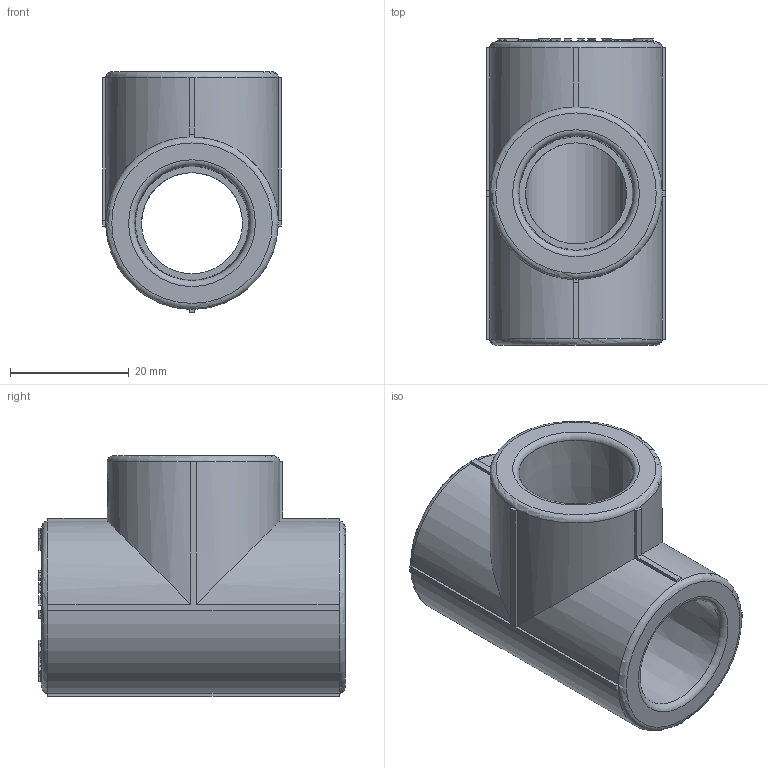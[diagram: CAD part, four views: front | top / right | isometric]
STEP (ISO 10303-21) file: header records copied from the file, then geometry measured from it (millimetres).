
FILE_DESCRIPTION(('STEP AP203'), '1');
FILE_NAME('ÂÐ.752241.026 - VTp.731.0.020', '', ('UNSPECIFIED'), ('UNSPECIFIED'), 'C3D Converter', 'C3D Toolkit', '');
FILE_SCHEMA(('CONFIG_CONTROL_DESIGN'));
Length unit declared in the file: millimetre
Products named in the file (1): ВР.752241.026
Bounding box: 30 x 51.5 x 40.5 mm (x, y, z)
Volume: 23812.3 mm3; surface area: 10542.2 mm2
Topology: 1 solids, 1 shells, 1047 faces, 2934 edges, 1946 vertices
Faces by surface type: extrusion 611, plane 390, cylinder 37, torus 6, cone 3
Full cylindrical faces by diameter (mm): 6 x1, 17 x2
Entity records: 38255 total; most frequent: CARTESIAN_POINT 14557, ORIENTED_EDGE 5842, DIRECTION 2926, EDGE_CURVE 2921, VECTOR 1970, VERTEX_POINT 1946, B_SPLINE_CURVE_WITH_KNOTS 1835, LINE 1359
